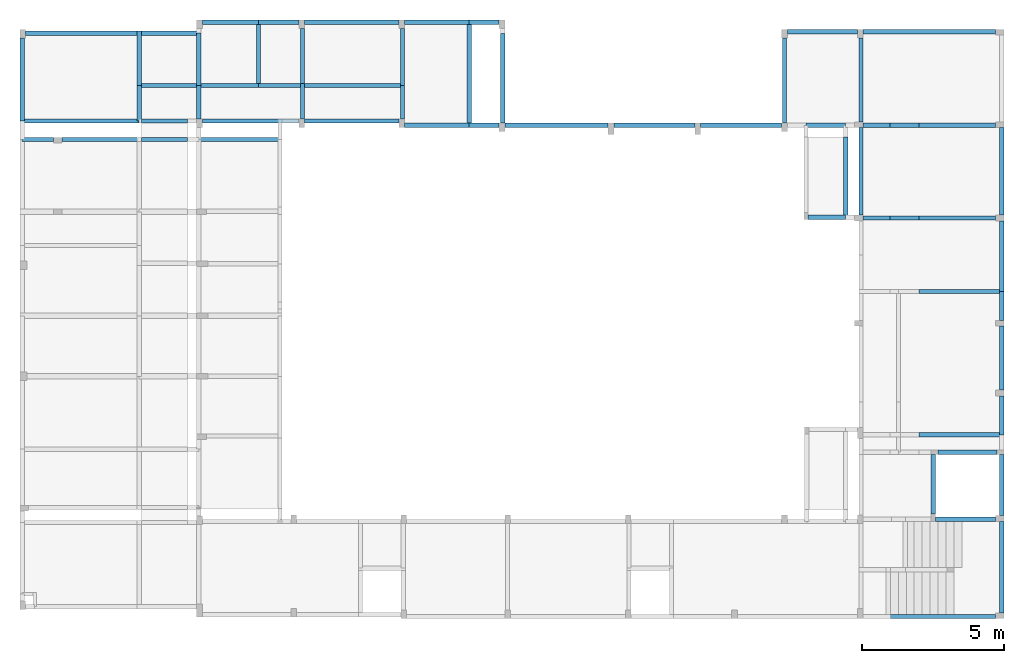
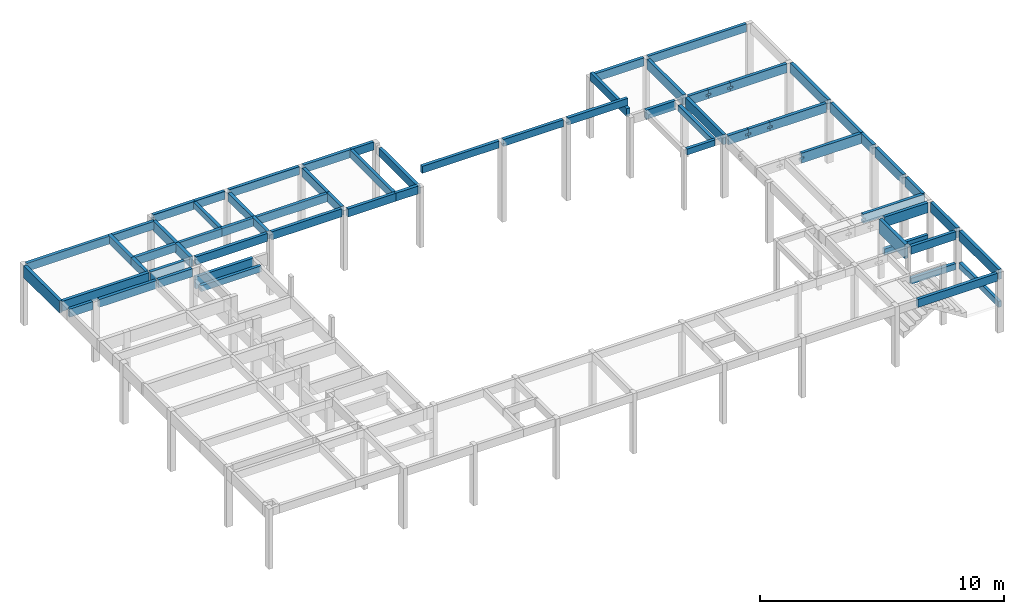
# One storey, part 3 of 21: 67 beams, 10 openings.
"""IFC4 building model written with IfcOpenShell, lengths in centimetres."""

import ifcopenshell
import ifcopenshell.guid

model = None  # the IFC model being written
_history = None  # IfcOwnerHistory: only IFC2X3 demands one
_inside = {}  # id of a spatial element -> (the spatial element, [elements in it])
_under = {}  # id of a project, library or spatial element -> (it, [spatial elements below it])
_declared = {}  # id of a project -> (the project, [libraries it declares])
_typed = {}  # id of a type object -> (the type object, [elements of that type])
_made_of = {}  # id of a material, layer set ... -> (it, [elements and type objects made of it])


def new_model(schema):
    """Start an empty IFC model of exactly this schema.

    Asked for "IFC4X3", IfcOpenShell would pick the latest addendum, in which some entities
    have other attributes; the version numbers below select the first issue.
    IFC2X3 requires an IfcOwnerHistory on every rooted entity: one is made here for all.
    """
    global model, _history
    if schema == "IFC4X3":
        model = ifcopenshell.file(schema_version=(4, 3, 0, 0))
    else:
        model = ifcopenshell.file(schema=schema)
    _inside.clear()
    _under.clear()
    _declared.clear()
    _typed.clear()
    _made_of.clear()
    _history = None
    if model.schema == "IFC2X3":
        org = make("IfcOrganization", Name="unknown")
        user = make(
            "IfcPersonAndOrganization",
            ThePerson=make("IfcPerson", FamilyName="unknown"),
            TheOrganization=org,
        )
        app = make(
            "IfcApplication",
            ApplicationDeveloper=org,
            Version="unknown",
            ApplicationFullName="unknown",
            ApplicationIdentifier="unknown",
        )
        _history = make(
            "IfcOwnerHistory",
            OwningUser=user,
            OwningApplication=app,
            ChangeAction="ADDED",
            CreationDate=0,
        )
    return model


def make(cls, **values):
    """One entity of the class cls with the attributes given. An attribute that is None is left unset."""
    return model.create_entity(
        cls, **{name: value for name, value in values.items() if value is not None}
    )


def rooted(cls, **values):
    """An entity with a GlobalId (a new one), such as an element, a storey or a relation."""
    return make(cls, GlobalId=ifcopenshell.guid.new(), OwnerHistory=_history, **values)


def si_unit(unit_type, name, prefix=None):
    """IfcSIUnit, for example si_unit("LENGTHUNIT", "METRE", prefix="MILLI")."""
    return make("IfcSIUnit", UnitType=unit_type, Prefix=prefix, Name=name)


def derived_unit(unit_type, elements):
    """IfcDerivedUnit: a product of units, each with its exponent."""
    return make(
        "IfcDerivedUnit",
        Elements=[
            make("IfcDerivedUnitElement", Unit=unit, Exponent=power)
            for unit, power in elements
        ],
        UnitType=unit_type,
    )


def assignment(units):
    """IfcUnitAssignment: the units of a project."""
    return None if units is None else make("IfcUnitAssignment", Units=units)


def point(xyz):
    """IfcCartesianPoint."""
    return None if xyz is None else make("IfcCartesianPoint", Coordinates=xyz)


def direction(xyz):
    """IfcDirection."""
    return None if xyz is None else make("IfcDirection", DirectionRatios=xyz)


def frame(location, z_axis=None, x_axis=None):
    """IfcAxis2Placement3D, a coordinate frame: its origin and axes. An axis left out is left unset."""
    return make(
        "IfcAxis2Placement3D",
        Location=point(location),
        Axis=direction(z_axis),
        RefDirection=direction(x_axis),
    )


def frame_2d(location, x_axis=None):
    """IfcAxis2Placement2D, a coordinate frame in the plane: its origin and x axis."""
    return make(
        "IfcAxis2Placement2D", Location=point(location), RefDirection=direction(x_axis)
    )


def origin_with_axes():
    """The frame at (0, 0, 0) with the z axis (0, 0, 1) and the x axis (1, 0, 0) written out."""
    return frame((0.0, 0.0, 0.0), z_axis=(0.0, 0.0, 1.0), x_axis=(1.0, 0.0, 0.0))


def origin_2d_with_axis():
    """The frame at (0, 0) in the plane with the x axis (1, 0) written out."""
    return frame_2d((0.0, 0.0), x_axis=(1.0, 0.0))


def place(relative_to, where):
    """IfcLocalPlacement: puts the frame where relative to a parent placement (None: the world)."""
    return make(
        "IfcLocalPlacement", PlacementRelTo=relative_to, RelativePlacement=where
    )


def context(
    kind, dimensions, precision=None, world=None, true_north=None, identifier=None
):
    """IfcGeometricRepresentationContext, for example the 3D "Model" context."""
    return make(
        "IfcGeometricRepresentationContext",
        ContextIdentifier=identifier,
        ContextType=kind,
        CoordinateSpaceDimension=dimensions,
        Precision=precision,
        WorldCoordinateSystem=world,
        TrueNorth=true_north,
    )


def project(units=None, contexts=None):
    """IfcProject with its units and contexts."""
    return rooted(
        "IfcProject",
        Name="project",
        RepresentationContexts=contexts,
        UnitsInContext=assignment(units),
    )


def spatial(cls, under=None, at=None, **own):
    """A site, building, storey or space (cls), placed at a placement, below another one or the project."""
    s = rooted(cls, ObjectPlacement=at, **own)
    if under is not None:
        _under.setdefault(under.id(), (under, []))[1].append(s)
    return s


def profile(cls, at=None, kind="AREA", **sizes):
    """A parametric profile (cls). Its sizes go by their IFC names, for example OverallWidth=200.0."""
    return make(cls, ProfileType=kind, Position=at, **sizes)


def rectangle(**sizes):
    """IfcRectangleProfileDef."""
    return profile("IfcRectangleProfileDef", **sizes)


def extrude(swept, where, along, depth):
    """IfcExtrudedAreaSolid: the profile swept, set in the frame where, extruded along a direction by depth."""
    return make(
        "IfcExtrudedAreaSolid",
        SweptArea=swept,
        Position=where,
        ExtrudedDirection=direction(along),
        Depth=depth,
    )


def shape(context_of_items, identifier, shape_type, items):
    """IfcShapeRepresentation: the items that make up one representation, for example the "Body"."""
    return make(
        "IfcShapeRepresentation",
        ContextOfItems=context_of_items,
        RepresentationIdentifier=identifier,
        RepresentationType=shape_type,
        Items=items,
    )


def material(Name=None, Category=None):
    """IfcMaterial."""
    return make("IfcMaterial", Name=Name, Category=Category)


def made_of(thing, what):
    """Note that an element or type object is made of a material, layer set ...; save() writes the relation."""
    if what is not None:
        _made_of.setdefault(what.id(), (what, []))[1].append(thing)
    return thing


def element(
    cls,
    number,
    at=None,
    inside=None,
    cuts=None,
    type_object=None,
    material=None,
    context=None,
    identifier="Body",
    shape_type=None,
    held_by="IfcProductDefinitionShape",
    body=None,
    shapes=None,
    **own,
):
    """One element of the class cls, such as IfcWall. Its Tag is "e" and its number.

    at: its placement. inside: the storey or other place that contains it. cuts: it is an
    opening in that element (IfcRelVoidsElement). A single representation is given by context,
    identifier, shape_type and body (its items); several are given by shapes. held_by: the class
    of the entity that holds the representations. save() writes the other relations.
    """
    e = rooted(cls, Tag="e%d" % number, ObjectPlacement=at, **own)
    if body is not None:
        shapes = [shape(context, identifier, shape_type, body)]
    if shapes is not None:
        e.Representation = make(held_by, Representations=shapes)
    if inside is not None:
        _inside.setdefault(inside.id(), (inside, []))[1].append(e)
    if cuts is not None:
        rooted(
            "IfcRelVoidsElement", RelatingBuildingElement=cuts, RelatedOpeningElement=e
        )
    if type_object is not None:
        _typed.setdefault(type_object.id(), (type_object, []))[1].append(e)
    return made_of(e, material)


def aggregate(whole, parts):
    """IfcRelAggregates: a whole, such as a stair, and the parts it consists of."""
    return rooted("IfcRelAggregates", RelatingObject=whole, RelatedObjects=parts)


def save(model, path):
    """Write the relations noted so far, then the file.

    IfcRelAggregates (storeys below a building ...), IfcRelContainedInSpatialStructure (elements
    in a storey), IfcRelDefinesByType, IfcRelAssociatesMaterial and IfcRelDeclares: one each for
    every whole, place, type object, material and project.
    """
    for whole, parts in _under.values():
        aggregate(whole, parts)
    for where, things in _inside.values():
        rooted(
            "IfcRelContainedInSpatialStructure",
            RelatedElements=things,
            RelatingStructure=where,
        )
    for kind, things in _typed.values():
        rooted("IfcRelDefinesByType", RelatedObjects=things, RelatingType=kind)
    for what, things in _made_of.values():
        rooted("IfcRelAssociatesMaterial", RelatedObjects=things, RelatingMaterial=what)
    for by, libraries in _declared.values():
        rooted("IfcRelDeclares", RelatingContext=by, RelatedDefinitions=libraries)
    model.write(path)


model = new_model("IFC4")

# Units and contexts
model_context = context("Model", 3, precision=1e-05, world=origin_with_axes(), identifier="Body")
ifc_project = project(units=[si_unit("LENGTHUNIT", "METRE", prefix="CENTI"), si_unit("VOLUMEUNIT", "CUBIC_METRE"), si_unit("AREAUNIT", "SQUARE_METRE"), si_unit("POWERUNIT", "WATT"), si_unit("LUMINOUSFLUXUNIT", "LUMEN"), si_unit("ELECTRICCURRENTUNIT", "AMPERE"), si_unit("PRESSUREUNIT", "PASCAL", prefix="KILO"), si_unit("MASSUNIT", "GRAM", prefix="KILO"), si_unit("PLANEANGLEUNIT", "RADIAN"), derived_unit("VOLUMETRICFLOWRATEUNIT", [(si_unit("LENGTHUNIT", "METRE"), 3), (si_unit("TIMEUNIT", "SECOND"), -1)])], contexts=[model_context])

# Site, building, storey
site_placement = place(None, origin_with_axes())
site = spatial("IfcSite", under=ifc_project, at=site_placement)
building_placement = place(site_placement, frame((0.0, 0.0, -295.0)))
building = spatial("IfcBuilding", under=site, at=building_placement)
placement_1 = place(building_placement, origin_with_axes())
placement_2 = place(placement_1, frame((0.0, 0.0, 101.0), z_axis=(0.0, 0.0, 1.0), x_axis=(1.0, 0.0, 0.0)))
placement_3 = place(placement_2, frame((0.0, 0.0, 204.0), z_axis=(0.0, 0.0, 1.0), x_axis=(1.0, 0.0, 0.0)))
placement_4 = place(placement_3, frame((0.0, 0.0, 292.0), z_axis=(0.0, 0.0, 1.0), x_axis=(1.0, 0.0, 0.0)))
storey_placement = place(placement_4, frame((0.0, 0.0, 302.0), z_axis=(0.0, 0.0, 1.0), x_axis=(1.0, 0.0, 0.0)))
storey = spatial("IfcBuildingStorey", under=building, at=storey_placement, Name="PAVTO 02", CompositionType="ELEMENT", Elevation=604.0)

# Beams
ifc_material = material(Name="Concreto")
beam_1_placement = place(storey_placement, frame((771.65, -5117.34, -2.0), z_axis=(0.0, 0.0, 1.0), x_axis=(1.0, 0.0, 0.0)))
element("IfcBeam", 1, at=beam_1_placement, inside=storey, material=ifc_material, Name="V201", context=model_context, shape_type="SolidModel", body=[
    extrude(rectangle(XDim=15.0, YDim=40.0, at=origin_2d_with_axis()), frame((-199.92, 0.0, -20.0), z_axis=(1.0, 0.0, 0.0), x_axis=(0.0, -1.0, 0.0)), (0.0, 0.0, 1.0), 399.84),
])
beam_2_placement = place(storey_placement, frame((1080.235, -5117.34, -2.0), z_axis=(0.0, 0.0, 1.0), x_axis=(1.0, 0.0, 0.0)))
element("IfcBeam", 2, at=beam_2_placement, inside=storey, material=ifc_material, Name="V201", context=model_context, shape_type="SolidModel", body=[
    extrude(rectangle(XDim=15.0, YDim=40.0, at=origin_2d_with_axis()), frame((-101.165, 0.0, -20.0), z_axis=(1.0, 0.0, 0.0), x_axis=(0.0, -1.0, 0.0)), (0.0, 0.0, 1.0), 202.33),
])
beam_3_placement = place(storey_placement, frame((1462.9, -5078.75, 0.0), z_axis=(0.0, 0.0, 1.0), x_axis=(1.0, 0.0, 0.0)))
element("IfcBeam", 3, at=beam_3_placement, inside=storey, material=ifc_material, Name="V202", context=model_context, shape_type="SolidModel", body=[
    extrude(rectangle(XDim=15.0, YDim=40.0, at=origin_2d_with_axis()), frame((-71.5, 0.0, -20.0), z_axis=(1.0, 0.0, 0.0), x_axis=(0.0, -1.0, 0.0)), (0.0, 0.0, 1.0), 143.0),
])
beam_4_placement = place(storey_placement, frame((2186.04, -5078.75, 0.0), z_axis=(0.0, 0.0, 1.0), x_axis=(1.0, 0.0, 0.0)))
element("IfcBeam", 4, at=beam_4_placement, inside=storey, material=ifc_material, Name="V202", context=model_context, shape_type="SolidModel", body=[
    extrude(rectangle(XDim=15.0, YDim=40.0, at=origin_2d_with_axis()), frame((-52.69, 0.0, -20.0), z_axis=(1.0, 0.0, 0.0), x_axis=(0.0, -1.0, 0.0)), (0.0, 0.0, 1.0), 105.38),
])
beam_5_placement = place(storey_placement, frame((1292.65, -5078.75, 0.0), z_axis=(0.0, 0.0, 1.0), x_axis=(1.0, 0.0, 0.0)))
element("IfcBeam", 5, at=beam_5_placement, inside=storey, material=ifc_material, Name="V202", context=model_context, shape_type="SolidModel", body=[
    extrude(rectangle(XDim=15.0, YDim=40.0, at=origin_2d_with_axis()), frame((-98.75, 0.0, -20.0), z_axis=(1.0, 0.0, 0.0), x_axis=(0.0, -1.0, 0.0)), (0.0, 0.0, 1.0), 197.5),
])
beam_6_placement = place(storey_placement, frame((1720.125, -5078.75, 0.0), z_axis=(0.0, 0.0, 1.0), x_axis=(1.0, 0.0, 0.0)))
element("IfcBeam", 6, at=beam_6_placement, inside=storey, material=ifc_material, Name="V202", context=model_context, shape_type="SolidModel", body=[
    extrude(rectangle(XDim=15.0, YDim=40.0, at=origin_2d_with_axis()), frame((-165.725, 0.0, -20.0), z_axis=(1.0, 0.0, 0.0), x_axis=(0.0, -1.0, 0.0)), (0.0, 0.0, 1.0), 331.45),
])
beam_7_placement = place(storey_placement, frame((2019.6, -5078.75, 0.0), z_axis=(0.0, 0.0, 1.0), x_axis=(1.0, 0.0, 0.0)))
element("IfcBeam", 7, at=beam_7_placement, inside=storey, material=ifc_material, Name="V202", context=model_context, shape_type="SolidModel", body=[
    extrude(rectangle(XDim=15.0, YDim=40.0, at=origin_2d_with_axis()), frame((-113.75, 0.0, -20.0), z_axis=(1.0, 0.0, 0.0), x_axis=(0.0, -1.0, 0.0)), (0.0, 0.0, 1.0), 227.5),
])
beam_8_placement = place(storey_placement, frame((3377.23, -5112.05, 0.0), z_axis=(0.0, 0.0, 1.0), x_axis=(1.0, 0.0, 0.0)))
element("IfcBeam", 8, at=beam_8_placement, inside=storey, material=ifc_material, Name="V203", context=model_context, shape_type="SolidModel", body=[
    extrude(rectangle(XDim=15.0, YDim=40.0, at=origin_2d_with_axis()), frame((-123.5, 0.0, -20.0), z_axis=(1.0, 0.0, 0.0), x_axis=(0.0, -1.0, 0.0)), (0.0, 0.0, 1.0), 247.0),
])
beam_9_placement = place(storey_placement, frame((3753.745, -5112.05, 0.0), z_axis=(0.0, 0.0, 1.0), x_axis=(1.0, 0.0, 0.0)))
element("IfcBeam", 9, at=beam_9_placement, inside=storey, material=ifc_material, Name="V203", context=model_context, shape_type="SolidModel", body=[
    extrude(rectangle(XDim=15.0, YDim=40.0, at=origin_2d_with_axis()), frame((-233.015, 0.0, -20.0), z_axis=(1.0, 0.0, 0.0), x_axis=(0.0, -1.0, 0.0)), (0.0, 0.0, 1.0), 466.03),
])
beam_10_placement = place(storey_placement, frame((1465.4, -5301.84, -2.0), z_axis=(0.0, 0.0, 1.0), x_axis=(1.0, 0.0, 0.0)))
element("IfcBeam", 10, at=beam_10_placement, inside=storey, material=ifc_material, Name="V204", context=model_context, shape_type="SolidModel", body=[
    extrude(rectangle(XDim=15.0, YDim=40.0, at=origin_2d_with_axis()), frame((-74.0, 0.0, -20.0), z_axis=(1.0, 0.0, 0.0), x_axis=(0.0, -1.0, 0.0)), (0.0, 0.0, 1.0), 148.0),
])
beam_11_placement = place(storey_placement, frame((1722.625, -5301.84, -2.0), z_axis=(0.0, 0.0, 1.0), x_axis=(1.0, 0.0, 0.0)))
element("IfcBeam", 11, at=beam_11_placement, inside=storey, material=ifc_material, Name="V204", context=model_context, shape_type="SolidModel", body=[
    extrude(rectangle(XDim=15.0, YDim=40.0, at=origin_2d_with_axis()), frame((-175.725, 0.0, -20.0), z_axis=(1.0, 0.0, 0.0), x_axis=(0.0, -1.0, 0.0)), (0.0, 0.0, 1.0), 351.45),
])
beam_12_placement = place(storey_placement, frame((1286.4, -5301.84, -2.0), z_axis=(0.0, 0.0, 1.0), x_axis=(1.0, 0.0, 0.0)))
element("IfcBeam", 12, at=beam_12_placement, inside=storey, material=ifc_material, Name="V204", context=model_context, shape_type="SolidModel", body=[
    extrude(rectangle(XDim=15.0, YDim=40.0, at=origin_2d_with_axis()), frame((-105.0, 0.0, -20.0), z_axis=(1.0, 0.0, 0.0), x_axis=(0.0, -1.0, 0.0)), (0.0, 0.0, 1.0), 210.0),
])
beam_13_placement = place(storey_placement, frame((1076.485, -5301.84, -2.0), z_axis=(0.0, 0.0, 1.0), x_axis=(1.0, 0.0, 0.0)))
element("IfcBeam", 13, at=beam_13_placement, inside=storey, material=ifc_material, Name="V204", context=model_context, shape_type="SolidModel", body=[
    extrude(rectangle(XDim=15.0, YDim=40.0, at=origin_2d_with_axis()), frame((-104.915, 0.0, -20.0), z_axis=(1.0, 0.0, 0.0), x_axis=(0.0, -1.0, 0.0)), (0.0, 0.0, 1.0), 209.83),
])
beam_14_placement = place(storey_placement, frame((1060.44, -5427.19, 0.0), z_axis=(0.0, 0.0, 1.0), x_axis=(1.0, 0.0, 0.0)))
element("IfcBeam", 14, at=beam_14_placement, inside=storey, material=ifc_material, Name="V205", context=model_context, shape_type="SolidModel", body=[
    extrude(rectangle(XDim=15.0, YDim=50.0, at=origin_2d_with_axis()), frame((-80.46, 0.0, -25.0), z_axis=(1.0, 0.0, 0.0), x_axis=(0.0, -1.0, 0.0)), (0.0, 0.0, 1.0), 160.92),
])
beam_15_placement = place(storey_placement, frame((765.4, -5427.19, 0.0), z_axis=(0.0, 0.0, 1.0), x_axis=(1.0, 0.0, 0.0)))
element("IfcBeam", 15, at=beam_15_placement, inside=storey, material=ifc_material, Name="V205", context=model_context, shape_type="SolidModel", body=[
    extrude(rectangle(XDim=15.0, YDim=50.0, at=origin_2d_with_axis()), frame((-206.17, 0.0, -25.0), z_axis=(1.0, 0.0, 0.0), x_axis=(0.0, -1.0, 0.0)), (0.0, 0.0, 1.0), 412.34),
])
beam_16_placement = place(storey_placement, frame((1720.125, -5427.19, 0.0), z_axis=(0.0, 0.0, 1.0), x_axis=(1.0, 0.0, 0.0)))
element("IfcBeam", 16, at=beam_16_placement, inside=storey, material=ifc_material, Name="V206", context=model_context, shape_type="SolidModel", body=[
    extrude(rectangle(XDim=15.0, YDim=40.0, at=origin_2d_with_axis()), frame((-165.725, 0.0, -20.0), z_axis=(1.0, 0.0, 0.0), x_axis=(0.0, -1.0, 0.0)), (0.0, 0.0, 1.0), 331.45),
])
beam_17_placement = place(storey_placement, frame((1364.15, -5427.19, 0.0), z_axis=(0.0, 0.0, 1.0), x_axis=(1.0, 0.0, 0.0)))
element("IfcBeam", 17, at=beam_17_placement, inside=storey, material=ifc_material, Name="V206", context=model_context, shape_type="SolidModel", body=[
    extrude(rectangle(XDim=15.0, YDim=40.0, at=origin_2d_with_axis()), frame((-170.25, 0.0, -20.0), z_axis=(1.0, 0.0, 0.0), x_axis=(0.0, -1.0, 0.0)), (0.0, 0.0, 1.0), 340.5),
])
beam_18_placement = place(storey_placement, frame((1060.44, -5491.66, 0.0), z_axis=(0.0, 0.0, 1.0), x_axis=(1.0, 0.0, 0.0)))
element("IfcBeam", 18, at=beam_18_placement, inside=storey, material=ifc_material, Name="V207", context=model_context, shape_type="SolidModel", body=[
    extrude(rectangle(XDim=15.0, YDim=40.0, at=origin_2d_with_axis()), frame((-80.46, 0.0, -20.0), z_axis=(1.0, 0.0, 0.0), x_axis=(0.0, -1.0, 0.0)), (0.0, 0.0, 1.0), 160.92),
])
beam_19_placement = place(storey_placement, frame((835.25, -5491.66, 0.0), z_axis=(0.0, 0.0, 1.0), x_axis=(1.0, 0.0, 0.0)))
element("IfcBeam", 19, at=beam_19_placement, inside=storey, material=ifc_material, Name="V207", context=model_context, shape_type="SolidModel", body=[
    extrude(rectangle(XDim=15.0, YDim=40.0, at=origin_2d_with_axis()), frame((-136.32, 0.0, -20.0), z_axis=(1.0, 0.0, 0.0), x_axis=(0.0, -1.0, 0.0)), (0.0, 0.0, 1.0), 272.64),
])
beam_20_placement = place(storey_placement, frame((614.08, -5491.66, 0.0), z_axis=(0.0, 0.0, 1.0), x_axis=(1.0, 0.0, 0.0)))
element("IfcBeam", 20, at=beam_20_placement, inside=storey, material=ifc_material, Name="V207", context=model_context, shape_type="SolidModel", body=[
    extrude(rectangle(XDim=15.0, YDim=40.0, at=origin_2d_with_axis()), frame((-54.85, 0.0, -20.0), z_axis=(1.0, 0.0, 0.0), x_axis=(0.0, -1.0, 0.0)), (0.0, 0.0, 1.0), 109.7),
])
beam_21_placement = place(storey_placement, frame((2019.6, -5442.12, 0.0), z_axis=(0.0, 0.0, 1.0), x_axis=(1.0, 0.0, 0.0)))
element("IfcBeam", 21, at=beam_21_placement, inside=storey, material=ifc_material, Name="V208", context=model_context, shape_type="SolidModel", body=[
    extrude(rectangle(XDim=15.0, YDim=40.0, at=origin_2d_with_axis()), frame((-113.75, 0.0, -20.0), z_axis=(1.0, 0.0, 0.0), x_axis=(0.0, -1.0, 0.0)), (0.0, 0.0, 1.0), 227.5),
])
beam_22_placement = place(storey_placement, frame((2186.04, -5442.12, 0.0), z_axis=(0.0, 0.0, 1.0), x_axis=(1.0, 0.0, 0.0)))
element("IfcBeam", 22, at=beam_22_placement, inside=storey, material=ifc_material, Name="V208", context=model_context, shape_type="SolidModel", body=[
    extrude(rectangle(XDim=15.0, YDim=40.0, at=origin_2d_with_axis()), frame((-52.69, 0.0, -20.0), z_axis=(1.0, 0.0, 0.0), x_axis=(0.0, -1.0, 0.0)), (0.0, 0.0, 1.0), 105.38),
])
beam_23_placement = place(storey_placement, frame((3091.005, -5442.12, 91.0), z_axis=(0.0, 0.0, 1.0), x_axis=(1.0, 0.0, 0.0)))
element("IfcBeam", 23, at=beam_23_placement, inside=storey, material=ifc_material, Name="V209", context=model_context, shape_type="SolidModel", body=[
    extrude(rectangle(XDim=15.0, YDim=35.0, at=origin_2d_with_axis()), frame((-142.725, 0.0, -17.5), z_axis=(1.0, 0.0, 0.0), x_axis=(0.0, -1.0, 0.0)), (0.0, 0.0, 1.0), 285.45),
])
beam_24_placement = place(storey_placement, frame((2440.785, -5442.12, 91.0), z_axis=(0.0, 0.0, 1.0), x_axis=(1.0, 0.0, 0.0)))
element("IfcBeam", 24, at=beam_24_placement, inside=storey, material=ifc_material, Name="V209", context=model_context, shape_type="SolidModel", body=[
    extrude(rectangle(XDim=15.0, YDim=35.0, at=origin_2d_with_axis()), frame((-182.055, 0.0, -17.5), z_axis=(1.0, 0.0, 0.0), x_axis=(0.0, -1.0, 0.0)), (0.0, 0.0, 1.0), 364.11),
])
beam_25_placement = place(storey_placement, frame((2785.56, -5442.12, 91.0), z_axis=(0.0, 0.0, 1.0), x_axis=(1.0, 0.0, 0.0)))
element("IfcBeam", 25, at=beam_25_placement, inside=storey, material=ifc_material, Name="V209", context=model_context, shape_type="SolidModel", body=[
    extrude(rectangle(XDim=15.0, YDim=35.0, at=origin_2d_with_axis()), frame((-142.72, 0.0, -17.5), z_axis=(1.0, 0.0, 0.0), x_axis=(0.0, -1.0, 0.0)), (0.0, 0.0, 1.0), 285.44),
])

# Beam, opening
beam_26_placement = place(storey_placement, frame((3852.495, -5442.12, 0.0), z_axis=(0.0, 0.0, 1.0), x_axis=(1.0, 0.0, 0.0)))
beam_26 = element("IfcBeam", 26, at=beam_26_placement, inside=storey, material=ifc_material, Name="V210", context=model_context, shape_type="SolidModel", body=[
    extrude(rectangle(XDim=15.0, YDim=45.0, at=origin_2d_with_axis()), frame((-134.245, 0.0, -22.5), z_axis=(1.0, 0.0, 0.0), x_axis=(0.0, -1.0, 0.0)), (0.0, 0.0, 1.0), 268.49),
])
opening_1_placement = place(storey_placement, frame((3718.25, -5442.12, -20.0), z_axis=(0.0, 0.0, 1.0), x_axis=(1.0, 0.0, 0.0)))
element("IfcOpeningElement", 27, at=opening_1_placement, cuts=beam_26, material=ifc_material, Name="V210 - Abertura 1", context=model_context, shape_type="SweptSolid", body=[
    extrude(rectangle(XDim=25.0, YDim=10.0, at=origin_2d_with_axis()), frame((0.0, -7.6, -5.0), z_axis=(0.0, 1.0, 0.0), x_axis=(-1.0, 0.0, 0.0)), (0.0, 0.0, 1.0), 15.2),
])

beam_27_placement = place(storey_placement, frame((3568.055, -5442.12, 0.0), z_axis=(0.0, 0.0, 1.0), x_axis=(1.0, 0.0, 0.0)))
beam_27 = element("IfcBeam", 28, at=beam_27_placement, inside=storey, material=ifc_material, Name="V210", context=model_context, shape_type="SolidModel", body=[
    extrude(rectangle(XDim=15.0, YDim=45.0, at=origin_2d_with_axis()), frame((-47.345, 0.0, -22.5), z_axis=(1.0, 0.0, 0.0), x_axis=(0.0, -1.0, 0.0)), (0.0, 0.0, 1.0), 94.69),
])
opening_2_placement = place(storey_placement, frame((3615.4, -5442.12, -20.0), z_axis=(0.0, 0.0, 1.0), x_axis=(1.0, 0.0, 0.0)))
element("IfcOpeningElement", 29, at=opening_2_placement, cuts=beam_27, material=ifc_material, Name="V210 - Abertura 1", context=model_context, shape_type="SweptSolid", body=[
    extrude(rectangle(XDim=25.0, YDim=10.0, at=origin_2d_with_axis()), frame((0.0, -7.6, -5.0), z_axis=(0.0, 1.0, 0.0), x_axis=(-1.0, 0.0, 0.0)), (0.0, 0.0, 1.0), 15.2),
])

# Beam, openings
beam_28_placement = place(storey_placement, frame((3666.825, -5442.12, 0.0), z_axis=(0.0, 0.0, 1.0), x_axis=(1.0, 0.0, 0.0)))
beam_28 = element("IfcBeam", 30, at=beam_28_placement, inside=storey, material=ifc_material, Name="V210", context=model_context, shape_type="SolidModel", body=[
    extrude(rectangle(XDim=15.0, YDim=45.0, at=origin_2d_with_axis()), frame((-51.425, 0.0, -22.5), z_axis=(1.0, 0.0, 0.0), x_axis=(0.0, -1.0, 0.0)), (0.0, 0.0, 1.0), 102.85),
])
opening_3_placement = place(storey_placement, frame((3615.4, -5442.12, -20.0), z_axis=(0.0, 0.0, 1.0), x_axis=(1.0, 0.0, 0.0)))
element("IfcOpeningElement", 31, at=opening_3_placement, cuts=beam_28, material=ifc_material, Name="V210 - Abertura 1", context=model_context, shape_type="SweptSolid", body=[
    extrude(rectangle(XDim=25.0, YDim=10.0, at=origin_2d_with_axis()), frame((0.0, -7.6, -5.0), z_axis=(0.0, 1.0, 0.0), x_axis=(-1.0, 0.0, 0.0)), (0.0, 0.0, 1.0), 15.2),
])
opening_4_placement = place(storey_placement, frame((3718.25, -5442.12, -20.0), z_axis=(0.0, 0.0, 1.0), x_axis=(1.0, 0.0, 0.0)))
element("IfcOpeningElement", 32, at=opening_4_placement, cuts=beam_28, material=ifc_material, Name="V210 - Abertura 2", context=model_context, shape_type="SweptSolid", body=[
    extrude(rectangle(XDim=25.0, YDim=10.0, at=origin_2d_with_axis()), frame((0.0, -7.6, -5.0), z_axis=(0.0, 1.0, 0.0), x_axis=(-1.0, 0.0, 0.0)), (0.0, 0.0, 1.0), 15.2),
])

# Beams
beam_29_placement = place(storey_placement, frame((3389.305, -5442.12, 0.0), z_axis=(0.0, 0.0, 1.0), x_axis=(1.0, 0.0, 0.0)))
element("IfcBeam", 33, at=beam_29_placement, inside=storey, material=ifc_material, Name="V210", context=model_context, shape_type="SolidModel", body=[
    extrude(rectangle(XDim=15.0, YDim=45.0, at=origin_2d_with_axis()), frame((-69.905, 0.0, -22.5), z_axis=(1.0, 0.0, 0.0), x_axis=(0.0, -1.0, 0.0)), (0.0, 0.0, 1.0), 139.81),
])
beam_30_placement = place(storey_placement, frame((3393.065, -5766.05, 0.0), z_axis=(0.0, 0.0, 1.0), x_axis=(1.0, 0.0, 0.0)))
element("IfcBeam", 34, at=beam_30_placement, inside=storey, material=ifc_material, Name="V212", context=model_context, shape_type="SolidModel", body=[
    extrude(rectangle(XDim=15.0, YDim=30.0, at=origin_2d_with_axis()), frame((-66.165, 0.0, -15.0), z_axis=(1.0, 0.0, 0.0), x_axis=(0.0, -1.0, 0.0)), (0.0, 0.0, 1.0), 132.33),
])

# Beam, opening
beam_31_placement = place(storey_placement, frame((3568.065, -5768.55, 0.0), z_axis=(0.0, 0.0, 1.0), x_axis=(1.0, 0.0, 0.0)))
beam_31 = element("IfcBeam", 35, at=beam_31_placement, inside=storey, material=ifc_material, Name="V213", context=model_context, shape_type="SolidModel", body=[
    extrude(rectangle(XDim=15.0, YDim=45.0, at=origin_2d_with_axis()), frame((-47.335, 0.0, -22.5), z_axis=(1.0, 0.0, 0.0), x_axis=(0.0, -1.0, 0.0)), (0.0, 0.0, 1.0), 94.67),
])
opening_5_placement = place(storey_placement, frame((3615.4, -5768.55, -20.0), z_axis=(0.0, 0.0, 1.0), x_axis=(1.0, 0.0, 0.0)))
element("IfcOpeningElement", 36, at=opening_5_placement, cuts=beam_31, material=ifc_material, Name="V213 - Abertura 1", context=model_context, shape_type="SweptSolid", body=[
    extrude(rectangle(XDim=25.0, YDim=10.0, at=origin_2d_with_axis()), frame((0.0, -7.6, -5.0), z_axis=(0.0, 1.0, 0.0), x_axis=(-1.0, 0.0, 0.0)), (0.0, 0.0, 1.0), 15.2),
])

# Beam, openings
beam_32_placement = place(storey_placement, frame((3666.825, -5768.55, 0.0), z_axis=(0.0, 0.0, 1.0), x_axis=(1.0, 0.0, 0.0)))
beam_32 = element("IfcBeam", 37, at=beam_32_placement, inside=storey, material=ifc_material, Name="V213", context=model_context, shape_type="SolidModel", body=[
    extrude(rectangle(XDim=15.0, YDim=45.0, at=origin_2d_with_axis()), frame((-51.425, 0.0, -22.5), z_axis=(1.0, 0.0, 0.0), x_axis=(0.0, -1.0, 0.0)), (0.0, 0.0, 1.0), 102.85),
])
opening_6_placement = place(storey_placement, frame((3615.4, -5768.55, -20.0), z_axis=(0.0, 0.0, 1.0), x_axis=(1.0, 0.0, 0.0)))
element("IfcOpeningElement", 38, at=opening_6_placement, cuts=beam_32, material=ifc_material, Name="V213 - Abertura 1", context=model_context, shape_type="SweptSolid", body=[
    extrude(rectangle(XDim=25.0, YDim=10.0, at=origin_2d_with_axis()), frame((0.0, -7.6, -5.0), z_axis=(0.0, 1.0, 0.0), x_axis=(-1.0, 0.0, 0.0)), (0.0, 0.0, 1.0), 15.2),
])
opening_7_placement = place(storey_placement, frame((3718.25, -5768.55, -20.0), z_axis=(0.0, 0.0, 1.0), x_axis=(1.0, 0.0, 0.0)))
element("IfcOpeningElement", 39, at=opening_7_placement, cuts=beam_32, material=ifc_material, Name="V213 - Abertura 2", context=model_context, shape_type="SweptSolid", body=[
    extrude(rectangle(XDim=25.0, YDim=10.0, at=origin_2d_with_axis()), frame((0.0, -7.6, -5.0), z_axis=(0.0, 1.0, 0.0), x_axis=(-1.0, 0.0, 0.0)), (0.0, 0.0, 1.0), 15.2),
])

# Beam, opening
beam_33_placement = place(storey_placement, frame((3852.505, -5768.55, 0.0), z_axis=(0.0, 0.0, 1.0), x_axis=(1.0, 0.0, 0.0)))
beam_33 = element("IfcBeam", 40, at=beam_33_placement, inside=storey, material=ifc_material, Name="V213", context=model_context, shape_type="SolidModel", body=[
    extrude(rectangle(XDim=15.0, YDim=45.0, at=origin_2d_with_axis()), frame((-134.255, 0.0, -22.5), z_axis=(1.0, 0.0, 0.0), x_axis=(0.0, -1.0, 0.0)), (0.0, 0.0, 1.0), 268.51),
])
opening_8_placement = place(storey_placement, frame((3718.25, -5768.55, -20.0), z_axis=(0.0, 0.0, 1.0), x_axis=(1.0, 0.0, 0.0)))
element("IfcOpeningElement", 41, at=opening_8_placement, cuts=beam_33, material=ifc_material, Name="V213 - Abertura 1", context=model_context, shape_type="SweptSolid", body=[
    extrude(rectangle(XDim=25.0, YDim=10.0, at=origin_2d_with_axis()), frame((0.0, -7.6, -5.0), z_axis=(0.0, 1.0, 0.0), x_axis=(-1.0, 0.0, 0.0)), (0.0, 0.0, 1.0), 15.2),
])

beam_34_placement = place(storey_placement, frame((3863.75, -6027.05, 0.0), z_axis=(0.0, 0.0, 1.0), x_axis=(1.0, 0.0, 0.0)))
beam_34 = element("IfcBeam", 42, at=beam_34_placement, inside=storey, material=ifc_material, Name="V216", context=model_context, shape_type="SolidModel", body=[
    extrude(rectangle(XDim=15.0, YDim=50.0, at=origin_2d_with_axis()), frame((-145.5, 0.0, -25.0), z_axis=(1.0, 0.0, 0.0), x_axis=(0.0, -1.0, 0.0)), (0.0, 0.0, 1.0), 291.0),
])
opening_9_placement = place(storey_placement, frame((3718.25, -6027.05, -20.0), z_axis=(0.0, 0.0, 1.0), x_axis=(1.0, 0.0, 0.0)))
element("IfcOpeningElement", 43, at=opening_9_placement, cuts=beam_34, material=ifc_material, Name="V216 - Abertura 1", context=model_context, shape_type="SweptSolid", body=[
    extrude(rectangle(XDim=25.0, YDim=10.0, at=origin_2d_with_axis()), frame((0.0, -7.6, -5.0), z_axis=(0.0, 1.0, 0.0), x_axis=(-1.0, 0.0, 0.0)), (0.0, 0.0, 1.0), 15.2),
])

beam_35_placement = place(storey_placement, frame((3863.75, -6532.05, 0.0), z_axis=(0.0, 0.0, 1.0), x_axis=(1.0, 0.0, 0.0)))
beam_35 = element("IfcBeam", 44, at=beam_35_placement, inside=storey, material=ifc_material, Name="V220", context=model_context, shape_type="SolidModel", body=[
    extrude(rectangle(XDim=15.0, YDim=45.0, at=origin_2d_with_axis()), frame((-145.5, 0.0, -22.5), z_axis=(1.0, 0.0, 0.0), x_axis=(0.0, -1.0, 0.0)), (0.0, 0.0, 1.0), 291.0),
])
opening_10_placement = place(storey_placement, frame((3718.25, -6532.05, -20.0), z_axis=(0.0, 0.0, 1.0), x_axis=(1.0, 0.0, 0.0)))
element("IfcOpeningElement", 45, at=opening_10_placement, cuts=beam_35, material=ifc_material, Name="V220 - Abertura 1", context=model_context, shape_type="SweptSolid", body=[
    extrude(rectangle(XDim=25.0, YDim=10.0, at=origin_2d_with_axis()), frame((0.0, -7.6, -5.0), z_axis=(0.0, 1.0, 0.0), x_axis=(-1.0, 0.0, 0.0)), (0.0, 0.0, 1.0), 15.2),
])

# Beams
beam_36_placement = place(storey_placement, frame((3888.23, -6592.81, 0.0), z_axis=(0.0, 0.0, 1.0), x_axis=(1.0, 0.0, 0.0)))
element("IfcBeam", 46, at=beam_36_placement, inside=storey, material=ifc_material, Name="V223", context=model_context, shape_type="SolidModel", body=[
    extrude(rectangle(XDim=15.0, YDim=50.0, at=origin_2d_with_axis()), frame((-103.5, 0.0, -25.0), z_axis=(1.0, 0.0, 0.0), x_axis=(0.0, -1.0, 0.0)), (0.0, 0.0, 1.0), 207.0),
])
beam_37_placement = place(storey_placement, frame((3880.74, -6828.79, 0.0), z_axis=(0.0, 0.0, 1.0), x_axis=(1.0, 0.0, 0.0)))
element("IfcBeam", 47, at=beam_37_placement, inside=storey, material=ifc_material, Name="V228", context=model_context, shape_type="SolidModel", body=[
    extrude(rectangle(XDim=15.0, YDim=40.0, at=origin_2d_with_axis()), frame((-106.01, 0.0, -20.0), z_axis=(1.0, 0.0, 0.0), x_axis=(0.0, -1.0, 0.0)), (0.0, 0.0, 1.0), 212.02),
])
beam_38_placement = place(storey_placement, frame((3797.925, -7171.81, 0.0), z_axis=(0.0, 0.0, 1.0), x_axis=(1.0, 0.0, 0.0)))
element("IfcBeam", 48, at=beam_38_placement, inside=storey, material=ifc_material, Name="V235", context=model_context, shape_type="SolidModel", body=[
    extrude(rectangle(XDim=15.0, YDim=40.0, at=origin_2d_with_axis()), frame((-188.835, 0.0, -20.0), z_axis=(1.0, 0.0, 0.0), x_axis=(0.0, -1.0, 0.0)), (0.0, 0.0, 1.0), 377.67),
])
beam_39_placement = place(storey_placement, frame((559.23, -5280.87, 0.0), z_axis=(0.0, 0.0, 1.0), x_axis=(1.0, 0.0, 0.0)))
element("IfcBeam", 49, at=beam_39_placement, inside=storey, material=ifc_material, Name="V237", context=model_context, shape_type="SolidModel", body=[
    extrude(rectangle(XDim=15.0, YDim=60.0, at=origin_2d_with_axis()), frame((0.0, -146.32, -30.0), z_axis=(0.0, 1.0, 0.0), x_axis=(1.0, 0.0, 0.0)), (0.0, 0.0, 1.0), 292.64),
])
beam_40_placement = place(storey_placement, frame((971.57, -5364.515, -2.0), z_axis=(0.0, 0.0, 1.0), x_axis=(1.0, 0.0, 0.0)))
element("IfcBeam", 50, at=beam_40_placement, inside=storey, material=ifc_material, Name="V240", context=model_context, shape_type="SolidModel", body=[
    extrude(rectangle(XDim=15.0, YDim=40.0, at=origin_2d_with_axis()), frame((0.0, -62.675, -20.0), z_axis=(0.0, 1.0, 0.0), x_axis=(1.0, 0.0, 0.0)), (0.0, 0.0, 1.0), 125.35),
])
beam_41_placement = place(storey_placement, frame((971.57, -5205.84, -2.0), z_axis=(0.0, 0.0, 1.0), x_axis=(1.0, 0.0, 0.0)))
element("IfcBeam", 51, at=beam_41_placement, inside=storey, material=ifc_material, Name="V240", context=model_context, shape_type="SolidModel", body=[
    extrude(rectangle(XDim=15.0, YDim=40.0, at=origin_2d_with_axis()), frame((0.0, -96.0, -20.0), z_axis=(0.0, 1.0, 0.0), x_axis=(1.0, 0.0, 0.0)), (0.0, 0.0, 1.0), 192.0),
])
beam_42_placement = place(storey_placement, frame((1181.4, -5360.765, -2.0), z_axis=(0.0, 0.0, 1.0), x_axis=(1.0, 0.0, 0.0)))
element("IfcBeam", 52, at=beam_42_placement, inside=storey, material=ifc_material, Name="V243", context=model_context, shape_type="SolidModel", body=[
    extrude(rectangle(XDim=15.0, YDim=50.0, at=origin_2d_with_axis()), frame((0.0, -58.925, -25.0), z_axis=(0.0, 1.0, 0.0), x_axis=(1.0, 0.0, 0.0)), (0.0, 0.0, 1.0), 117.85),
])
beam_43_placement = place(storey_placement, frame((1181.4, -5209.59, -2.0), z_axis=(0.0, 0.0, 1.0), x_axis=(1.0, 0.0, 0.0)))
element("IfcBeam", 53, at=beam_43_placement, inside=storey, material=ifc_material, Name="V243", context=model_context, shape_type="SolidModel", body=[
    extrude(rectangle(XDim=15.0, YDim=50.0, at=origin_2d_with_axis()), frame((0.0, -92.25, -25.0), z_axis=(0.0, 1.0, 0.0), x_axis=(1.0, 0.0, 0.0)), (0.0, 0.0, 1.0), 184.5),
])
beam_44_placement = place(storey_placement, frame((1391.4, -5190.295, -2.0), z_axis=(0.0, 0.0, 1.0), x_axis=(1.0, 0.0, 0.0)))
element("IfcBeam", 54, at=beam_44_placement, inside=storey, material=ifc_material, Name="V244", context=model_context, shape_type="SolidModel", body=[
    extrude(rectangle(XDim=15.0, YDim=30.0, at=origin_2d_with_axis()), frame((0.0, -111.545, -15.0), z_axis=(0.0, 1.0, 0.0), x_axis=(1.0, 0.0, 0.0)), (0.0, 0.0, 1.0), 223.09),
])
beam_45_placement = place(storey_placement, frame((1546.9, -5357.015, -2.0), z_axis=(0.0, 0.0, 1.0), x_axis=(1.0, 0.0, 0.0)))
element("IfcBeam", 55, at=beam_45_placement, inside=storey, material=ifc_material, Name="V246", context=model_context, shape_type="SolidModel", body=[
    extrude(rectangle(XDim=15.0, YDim=40.0, at=origin_2d_with_axis()), frame((0.0, -62.675, -20.0), z_axis=(0.0, 1.0, 0.0), x_axis=(1.0, 0.0, 0.0)), (0.0, 0.0, 1.0), 125.35),
])
beam_46_placement = place(storey_placement, frame((1546.9, -5201.475, -2.0), z_axis=(0.0, 0.0, 1.0), x_axis=(1.0, 0.0, 0.0)))
element("IfcBeam", 56, at=beam_46_placement, inside=storey, material=ifc_material, Name="V246", context=model_context, shape_type="SolidModel", body=[
    extrude(rectangle(XDim=15.0, YDim=40.0, at=origin_2d_with_axis()), frame((0.0, -100.365, -20.0), z_axis=(0.0, 1.0, 0.0), x_axis=(1.0, 0.0, 0.0)), (0.0, 0.0, 1.0), 200.73),
])
beam_47_placement = place(storey_placement, frame((1898.35, -5201.475, 0.0), z_axis=(0.0, 0.0, 1.0), x_axis=(1.0, 0.0, 0.0)))
element("IfcBeam", 57, at=beam_47_placement, inside=storey, material=ifc_material, Name="V249", context=model_context, shape_type="SolidModel", body=[
    extrude(rectangle(XDim=15.0, YDim=45.0, at=origin_2d_with_axis()), frame((0.0, -100.365, -22.5), z_axis=(0.0, 1.0, 0.0), x_axis=(1.0, 0.0, 0.0)), (0.0, 0.0, 1.0), 200.73),
])
beam_48_placement = place(storey_placement, frame((1898.35, -5360.765, 0.0), z_axis=(0.0, 0.0, 1.0), x_axis=(1.0, 0.0, 0.0)))
element("IfcBeam", 58, at=beam_48_placement, inside=storey, material=ifc_material, Name="V249", context=model_context, shape_type="SolidModel", body=[
    extrude(rectangle(XDim=15.0, YDim=45.0, at=origin_2d_with_axis()), frame((0.0, -58.925, -22.5), z_axis=(0.0, 1.0, 0.0), x_axis=(1.0, 0.0, 0.0)), (0.0, 0.0, 1.0), 117.85),
])
beam_49_placement = place(storey_placement, frame((2133.35, -5260.435, 0.0), z_axis=(0.0, 0.0, 1.0), x_axis=(1.0, 0.0, 0.0)))
element("IfcBeam", 59, at=beam_49_placement, inside=storey, material=ifc_material, Name="V250", context=model_context, shape_type="SolidModel", body=[
    extrude(rectangle(XDim=15.0, YDim=40.0, at=origin_2d_with_axis()), frame((0.0, -181.685, -20.0), z_axis=(0.0, 1.0, 0.0), x_axis=(1.0, 0.0, 0.0)), (0.0, 0.0, 1.0), 363.37),
])
beam_50_placement = place(storey_placement, frame((2251.23, -5276.585, -12.0), z_axis=(0.0, 0.0, 1.0), x_axis=(1.0, 0.0, 0.0)))
element("IfcBeam", 60, at=beam_50_placement, inside=storey, material=ifc_material, Name="V252", context=model_context, shape_type="SolidModel", body=[
    extrude(rectangle(XDim=15.0, YDim=40.0, at=origin_2d_with_axis()), frame((0.0, -158.035, -20.0), z_axis=(0.0, 1.0, 0.0), x_axis=(1.0, 0.0, 0.0)), (0.0, 0.0, 1.0), 316.07),
])
beam_51_placement = place(storey_placement, frame((3243.73, -5284.585, 28.0), z_axis=(0.0, 0.0, 1.0), x_axis=(1.0, 0.0, 0.0)))
element("IfcBeam", 61, at=beam_51_placement, inside=storey, material=ifc_material, Name="V255", context=model_context, shape_type="SolidModel", body=[
    extrude(rectangle(XDim=15.0, YDim=40.0, at=origin_2d_with_axis()), frame((0.0, -150.035, -20.0), z_axis=(0.0, 1.0, 0.0), x_axis=(1.0, 0.0, 0.0)), (0.0, 0.0, 1.0), 300.07),
])
beam_52_placement = place(storey_placement, frame((3459.22, -5624.159735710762, 0.0), z_axis=(0.0, 0.0, 1.0), x_axis=(1.0, 0.0, 0.0)))
element("IfcBeam", 62, at=beam_52_placement, inside=storey, material=ifc_material, Name="V259", context=model_context, shape_type="SolidModel", body=[
    extrude(rectangle(XDim=15.0, YDim=30.0, at=origin_2d_with_axis()), frame((0.01, -141.89026428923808, -15.0), z_axis=(-7.047712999e-05, 1.0, 0.0), x_axis=(1.0, 7.047712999e-05, 0.0)), (0.0, 0.0, 1.0), 283.78052928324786),
])
beam_53_placement = place(storey_placement, frame((3513.23, -5604.12, 0.0), z_axis=(0.0, 0.0, 1.0), x_axis=(1.0, 0.0, 0.0)))
element("IfcBeam", 63, at=beam_53_placement, inside=storey, material=ifc_material, Name="V260", context=model_context, shape_type="SolidModel", body=[
    extrude(rectangle(XDim=15.0, YDim=50.0, at=origin_2d_with_axis()), frame((0.0, -154.43, -25.0), z_axis=(0.0, 1.0, 0.0), x_axis=(1.0, 0.0, 0.0)), (0.0, 0.0, 1.0), 308.86),
])
beam_54_placement = place(storey_placement, frame((3513.23, -5282.12, 0.0), z_axis=(0.0, 0.0, 1.0), x_axis=(1.0, 0.0, 0.0)))
element("IfcBeam", 64, at=beam_54_placement, inside=storey, material=ifc_material, Name="V260", context=model_context, shape_type="SolidModel", body=[
    extrude(rectangle(XDim=15.0, YDim=50.0, at=origin_2d_with_axis()), frame((0.0, -147.57, -25.0), z_axis=(0.0, 1.0, 0.0), x_axis=(1.0, 0.0, 0.0)), (0.0, 0.0, 1.0), 295.14),
])
beam_55_placement = place(storey_placement, frame((3767.23, -6705.8, 0.0), z_axis=(0.0, 0.0, 1.0), x_axis=(1.0, 0.0, 0.0)))
element("IfcBeam", 65, at=beam_55_placement, inside=storey, material=ifc_material, Name="V265", context=model_context, shape_type="SolidModel", body=[
    extrude(rectangle(XDim=15.0, YDim=72.0, at=origin_2d_with_axis()), frame((0.0, -105.49, -36.0), z_axis=(0.0, 1.0, 0.0), x_axis=(1.0, 0.0, 0.0)), (0.0, 0.0, 1.0), 210.98),
])
beam_56_placement = place(storey_placement, frame((4009.25, -6708.3, 0.0), z_axis=(0.0, 0.0, 1.0), x_axis=(1.0, 0.0, 0.0)))
element("IfcBeam", 66, at=beam_56_placement, inside=storey, material=ifc_material, Name="V266", context=model_context, shape_type="SolidModel", body=[
    extrude(rectangle(XDim=15.0, YDim=50.0, at=origin_2d_with_axis()), frame((0.0, -107.99, -25.0), z_axis=(0.0, 1.0, 0.0), x_axis=(1.0, 0.0, 0.0)), (0.0, 0.0, 1.0), 215.98),
])
beam_57_placement = place(storey_placement, frame((4009.25, -6261.6, 0.0), z_axis=(0.0, 0.0, 1.0), x_axis=(1.0, 0.0, 0.0)))
element("IfcBeam", 67, at=beam_57_placement, inside=storey, material=ifc_material, Name="V266", context=model_context, shape_type="SolidModel", body=[
    extrude(rectangle(XDim=15.0, YDim=50.0, at=origin_2d_with_axis()), frame((0.0, -113.05, -25.0), z_axis=(0.0, 1.0, 0.0), x_axis=(1.0, 0.0, 0.0)), (0.0, 0.0, 1.0), 226.1),
])
beam_58_placement = place(storey_placement, frame((4009.25, -6077.8, 0.0), z_axis=(0.0, 0.0, 1.0), x_axis=(1.0, 0.0, 0.0)))
element("IfcBeam", 68, at=beam_58_placement, inside=storey, material=ifc_material, Name="V266", context=model_context, shape_type="SolidModel", body=[
    extrude(rectangle(XDim=15.0, YDim=50.0, at=origin_2d_with_axis()), frame((0.0, -50.75, -25.0), z_axis=(0.0, 1.0, 0.0), x_axis=(1.0, 0.0, 0.0)), (0.0, 0.0, 1.0), 101.5),
])
beam_59_placement = place(storey_placement, frame((4009.25, -5604.12, 0.0), z_axis=(0.0, 0.0, 1.0), x_axis=(1.0, 0.0, 0.0)))
element("IfcBeam", 69, at=beam_59_placement, inside=storey, material=ifc_material, Name="V266", context=model_context, shape_type="SolidModel", body=[
    extrude(rectangle(XDim=15.0, YDim=50.0, at=origin_2d_with_axis()), frame((0.0, -154.43, -25.0), z_axis=(0.0, 1.0, 0.0), x_axis=(1.0, 0.0, 0.0)), (0.0, 0.0, 1.0), 308.86),
])
beam_60_placement = place(storey_placement, frame((4009.25, -6997.8, 0.0), z_axis=(0.0, 0.0, 1.0), x_axis=(1.0, 0.0, 0.0)))
element("IfcBeam", 70, at=beam_60_placement, inside=storey, material=ifc_material, Name="V266", context=model_context, shape_type="SolidModel", body=[
    extrude(rectangle(XDim=15.0, YDim=50.0, at=origin_2d_with_axis()), frame((0.0, -161.51, -25.0), z_axis=(0.0, 1.0, 0.0), x_axis=(1.0, 0.0, 0.0)), (0.0, 0.0, 1.0), 323.02),
])
beam_61_placement = place(storey_placement, frame((4009.25, -5902.8, 0.0), z_axis=(0.0, 0.0, 1.0), x_axis=(1.0, 0.0, 0.0)))
element("IfcBeam", 71, at=beam_61_placement, inside=storey, material=ifc_material, Name="V266", context=model_context, shape_type="SolidModel", body=[
    extrude(rectangle(XDim=15.0, YDim=50.0, at=origin_2d_with_axis()), frame((0.0, -124.25, -25.0), z_axis=(0.0, 1.0, 0.0), x_axis=(1.0, 0.0, 0.0)), (0.0, 0.0, 1.0), 248.5),
])
beam_62_placement = place(storey_placement, frame((4009.25, -6463.35, 0.0), z_axis=(0.0, 0.0, 1.0), x_axis=(1.0, 0.0, 0.0)))
element("IfcBeam", 72, at=beam_62_placement, inside=storey, material=ifc_material, Name="V266", context=model_context, shape_type="SolidModel", body=[
    extrude(rectangle(XDim=15.0, YDim=50.0, at=origin_2d_with_axis()), frame((0.0, -68.7, -25.0), z_axis=(0.0, 1.0, 0.0), x_axis=(1.0, 0.0, 0.0)), (0.0, 0.0, 1.0), 137.4),
])
beam_63_placement = place(storey_placement, frame((1330.65, -5427.19, -100.0), z_axis=(0.0, 0.0, 1.0), x_axis=(1.0, 0.0, 0.0)))
element("IfcBeam", 73, at=beam_63_placement, inside=storey, material=ifc_material, Name="V267", context=model_context, shape_type="SolidModel", body=[
    extrude(rectangle(XDim=15.0, YDim=60.0, at=origin_2d_with_axis()), frame((-136.75, 0.0, -30.0), z_axis=(1.0, 0.0, 0.0), x_axis=(0.0, -1.0, 0.0)), (0.0, 0.0, 1.0), 273.5),
])
beam_64_placement = place(storey_placement, frame((1324.4, -5491.66, -100.0), z_axis=(0.0, 0.0, 1.0), x_axis=(1.0, 0.0, 0.0)))
element("IfcBeam", 74, at=beam_64_placement, inside=storey, material=ifc_material, Name="V268", context=model_context, shape_type="SolidModel", body=[
    extrude(rectangle(XDim=15.0, YDim=30.0, at=origin_2d_with_axis()), frame((-143.0, 0.0, -15.0), z_axis=(1.0, 0.0, 0.0), x_axis=(0.0, -1.0, 0.0)), (0.0, 0.0, 1.0), 286.0),
])
beam_65_placement = place(storey_placement, frame((3888.23, -6592.81, -160.0), z_axis=(0.0, 0.0, 1.0), x_axis=(1.0, 0.0, 0.0)))
element("IfcBeam", 75, at=beam_65_placement, inside=storey, material=ifc_material, Name="V278", context=model_context, shape_type="SolidModel", body=[
    extrude(rectangle(XDim=15.0, YDim=30.0, at=origin_2d_with_axis()), frame((-103.5, 0.0, -15.0), z_axis=(1.0, 0.0, 0.0), x_axis=(0.0, -1.0, 0.0)), (0.0, 0.0, 1.0), 207.0),
])
beam_66_placement = place(storey_placement, frame((3880.74, -6828.79, -160.0), z_axis=(0.0, 0.0, 1.0), x_axis=(1.0, 0.0, 0.0)))
element("IfcBeam", 76, at=beam_66_placement, inside=storey, material=ifc_material, Name="V279", context=model_context, shape_type="SolidModel", body=[
    extrude(rectangle(XDim=15.0, YDim=30.0, at=origin_2d_with_axis()), frame((-106.01, 0.0, -15.0), z_axis=(1.0, 0.0, 0.0), x_axis=(0.0, -1.0, 0.0)), (0.0, 0.0, 1.0), 212.02),
])
beam_67_placement = place(storey_placement, frame((4009.255, -6997.8, -160.0), z_axis=(0.0, 0.0, 1.0), x_axis=(1.0, 0.0, 0.0)))
element("IfcBeam", 77, at=beam_67_placement, inside=storey, material=ifc_material, Name="V280", context=model_context, shape_type="SolidModel", body=[
    extrude(rectangle(XDim=15.0, YDim=30.0, at=origin_2d_with_axis()), frame((0.005, -161.51, -15.0), z_axis=(-3.0957835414e-05, 1.0, 0.0), x_axis=(1.0, 3.0957835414e-05, 0.0)), (0.0, 0.0, 1.0), 323.0200001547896),
])

save(model, "model.ifc")
